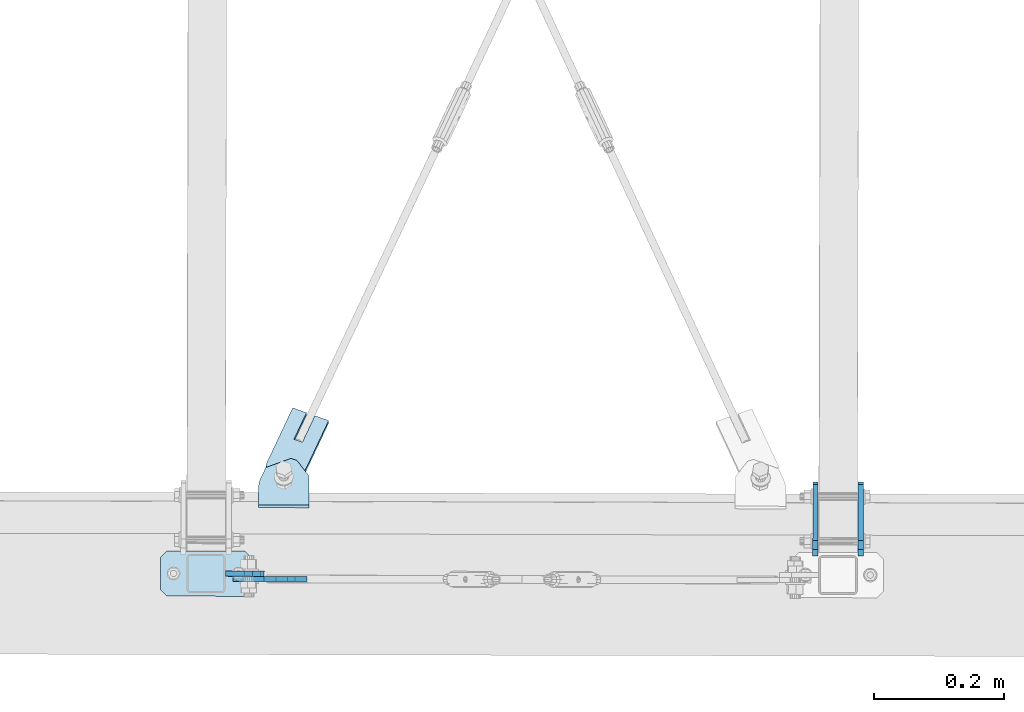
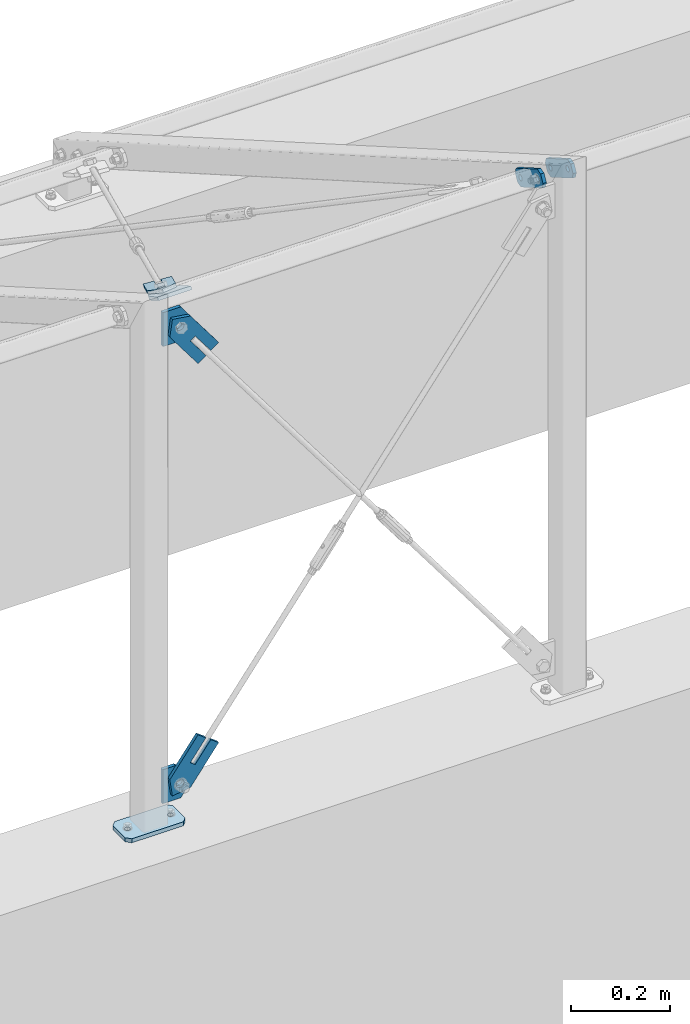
# One storey, part 27 of 288: 9 plates, 38 openings.
"""IFC2X3 building model written with IfcOpenShell, lengths in millimetres."""

import ifcopenshell
import ifcopenshell.guid

model = None  # the IFC model being written
_history = None  # IfcOwnerHistory: only IFC2X3 demands one
_inside = {}  # id of a spatial element -> (the spatial element, [elements in it])
_under = {}  # id of a project, library or spatial element -> (it, [spatial elements below it])
_declared = {}  # id of a project -> (the project, [libraries it declares])
_typed = {}  # id of a type object -> (the type object, [elements of that type])
_made_of = {}  # id of a material, layer set ... -> (it, [elements and type objects made of it])


def new_model(schema):
    """Start an empty IFC model of exactly this schema.

    Asked for "IFC4X3", IfcOpenShell would pick the latest addendum, in which some entities
    have other attributes; the version numbers below select the first issue.
    IFC2X3 requires an IfcOwnerHistory on every rooted entity: one is made here for all.
    """
    global model, _history
    if schema == "IFC4X3":
        model = ifcopenshell.file(schema_version=(4, 3, 0, 0))
    else:
        model = ifcopenshell.file(schema=schema)
    _inside.clear()
    _under.clear()
    _declared.clear()
    _typed.clear()
    _made_of.clear()
    _history = None
    if model.schema == "IFC2X3":
        org = make("IfcOrganization", Name="unknown")
        user = make(
            "IfcPersonAndOrganization",
            ThePerson=make("IfcPerson", FamilyName="unknown"),
            TheOrganization=org,
        )
        app = make(
            "IfcApplication",
            ApplicationDeveloper=org,
            Version="unknown",
            ApplicationFullName="unknown",
            ApplicationIdentifier="unknown",
        )
        _history = make(
            "IfcOwnerHistory",
            OwningUser=user,
            OwningApplication=app,
            ChangeAction="ADDED",
            CreationDate=0,
        )
    return model


def make(cls, **values):
    """One entity of the class cls with the attributes given. An attribute that is None is left unset."""
    return model.create_entity(
        cls, **{name: value for name, value in values.items() if value is not None}
    )


def entity(cls, *values):
    """Any entity or typed value of the class cls, its attributes in the order of the schema. None: left unset."""
    e = model.create_entity(cls)
    for i, value in enumerate(values):
        if value is not None:
            e[i] = value
    return e


def rooted(cls, **values):
    """An entity with a GlobalId (a new one), such as an element, a storey or a relation."""
    return make(cls, GlobalId=ifcopenshell.guid.new(), OwnerHistory=_history, **values)


def si_unit(unit_type, name, prefix=None):
    """IfcSIUnit, for example si_unit("LENGTHUNIT", "METRE", prefix="MILLI")."""
    return make("IfcSIUnit", UnitType=unit_type, Prefix=prefix, Name=name)


def converted_unit(unit_type, name, factor, base, dimensions=None, offset=None):
    """IfcConversionBasedUnit, such as the inch: factor (a typed value) times the base unit."""
    return make(
        "IfcConversionBasedUnit"
        if offset is None
        else "IfcConversionBasedUnitWithOffset",
        ConversionOffset=offset,
        Dimensions=None
        if dimensions is None
        else entity("IfcDimensionalExponents", *dimensions),
        UnitType=unit_type,
        Name=name,
        ConversionFactor=make(
            "IfcMeasureWithUnit", ValueComponent=factor, UnitComponent=base
        ),
    )


def assignment(units):
    """IfcUnitAssignment: the units of a project."""
    return None if units is None else make("IfcUnitAssignment", Units=units)


def point(xyz):
    """IfcCartesianPoint."""
    return None if xyz is None else make("IfcCartesianPoint", Coordinates=xyz)


def direction(xyz):
    """IfcDirection."""
    return None if xyz is None else make("IfcDirection", DirectionRatios=xyz)


def frame(location, z_axis=None, x_axis=None):
    """IfcAxis2Placement3D, a coordinate frame: its origin and axes. An axis left out is left unset."""
    return make(
        "IfcAxis2Placement3D",
        Location=point(location),
        Axis=direction(z_axis),
        RefDirection=direction(x_axis),
    )


def frame_2d(location, x_axis=None):
    """IfcAxis2Placement2D, a coordinate frame in the plane: its origin and x axis."""
    return make(
        "IfcAxis2Placement2D", Location=point(location), RefDirection=direction(x_axis)
    )


def origin():
    """The frame at (0, 0, 0) with its axes left unset."""
    return frame((0.0, 0.0, 0.0))


def origin_with_axes():
    """The frame at (0, 0, 0) with the z axis (0, 0, 1) and the x axis (1, 0, 0) written out."""
    return frame((0.0, 0.0, 0.0), z_axis=(0.0, 0.0, 1.0), x_axis=(1.0, 0.0, 0.0))


def origin_2d_with_axis():
    """The frame at (0, 0) in the plane with the x axis (1, 0) written out."""
    return frame_2d((0.0, 0.0), x_axis=(1.0, 0.0))


def place(relative_to, where):
    """IfcLocalPlacement: puts the frame where relative to a parent placement (None: the world)."""
    return make(
        "IfcLocalPlacement", PlacementRelTo=relative_to, RelativePlacement=where
    )


def context(
    kind, dimensions, precision=None, world=None, true_north=None, identifier=None
):
    """IfcGeometricRepresentationContext, for example the 3D "Model" context."""
    return make(
        "IfcGeometricRepresentationContext",
        ContextIdentifier=identifier,
        ContextType=kind,
        CoordinateSpaceDimension=dimensions,
        Precision=precision,
        WorldCoordinateSystem=world,
        TrueNorth=true_north,
    )


def project(units=None, contexts=None):
    """IfcProject with its units and contexts."""
    return rooted(
        "IfcProject",
        Name="project",
        RepresentationContexts=contexts,
        UnitsInContext=assignment(units),
    )


def spatial(cls, under=None, at=None, **own):
    """A site, building, storey or space (cls), placed at a placement, below another one or the project."""
    s = rooted(cls, ObjectPlacement=at, **own)
    if under is not None:
        _under.setdefault(under.id(), (under, []))[1].append(s)
    return s


def polyline(points):
    """IfcPolyline through the points."""
    return make("IfcPolyline", Points=[point(p) for p in points])


def circle_curve(where, radius):
    """IfcCircle in the frame where."""
    return make("IfcCircle", Position=where, Radius=radius)


def line_curve(start, along, magnitude):
    """IfcLine from a point along a vector."""
    return make(
        "IfcLine",
        Pnt=point(start),
        Dir=make("IfcVector", Orientation=direction(along), Magnitude=magnitude),
    )


def trimmed(basis, trim1, trim2, sense, master):
    """IfcTrimmedCurve: the piece of a basis curve between two trims."""
    return make(
        "IfcTrimmedCurve",
        BasisCurve=basis,
        Trim1=trim1,
        Trim2=trim2,
        SenseAgreement=sense,
        MasterRepresentation=master,
    )


def segment(curve, same_sense, transition):
    """IfcCompositeCurveSegment."""
    return make(
        "IfcCompositeCurveSegment",
        Transition=transition,
        SameSense=same_sense,
        ParentCurve=curve,
    )


def composite_curve(segments, self_intersect=None):
    """IfcCompositeCurve: segments joined end to end."""
    return make("IfcCompositeCurve", Segments=segments, SelfIntersect=self_intersect)


def profile(cls, at=None, kind="AREA", **sizes):
    """A parametric profile (cls). Its sizes go by their IFC names, for example OverallWidth=200.0."""
    return make(cls, ProfileType=kind, Position=at, **sizes)


def circle(**sizes):
    """IfcCircleProfileDef."""
    return profile("IfcCircleProfileDef", **sizes)


def outline(outer, holes=None, kind="AREA"):
    """IfcArbitraryClosedProfileDef: a profile drawn as a closed curve; with holes, ...WithVoids."""
    if holes is None:
        return make("IfcArbitraryClosedProfileDef", ProfileType=kind, OuterCurve=outer)
    return make(
        "IfcArbitraryProfileDefWithVoids",
        ProfileType=kind,
        OuterCurve=outer,
        InnerCurves=holes,
    )


def extrude(swept, where, along, depth):
    """IfcExtrudedAreaSolid: the profile swept, set in the frame where, extruded along a direction by depth."""
    return make(
        "IfcExtrudedAreaSolid",
        SweptArea=swept,
        Position=where,
        ExtrudedDirection=direction(along),
        Depth=depth,
    )


def shape(context_of_items, identifier, shape_type, items):
    """IfcShapeRepresentation: the items that make up one representation, for example the "Body"."""
    return make(
        "IfcShapeRepresentation",
        ContextOfItems=context_of_items,
        RepresentationIdentifier=identifier,
        RepresentationType=shape_type,
        Items=items,
    )


def material(Name=None, Category=None):
    """IfcMaterial."""
    return make("IfcMaterial", Name=Name, Category=Category)


def layer(
    of_material, thickness, ventilated=None, Name=None, Category=None, Priority=None
):
    """IfcMaterialLayer: one layer of a wall or slab, of a material (None: an air gap)."""
    return make(
        "IfcMaterialLayer",
        Material=of_material,
        LayerThickness=thickness,
        IsVentilated=ventilated,
        Name=Name,
        Category=Category,
        Priority=Priority,
    )


def layer_set(layers, Name=None):
    """IfcMaterialLayerSet."""
    return make("IfcMaterialLayerSet", MaterialLayers=layers, LayerSetName=Name)


def made_of(thing, what):
    """Note that an element or type object is made of a material, layer set ...; save() writes the relation."""
    if what is not None:
        _made_of.setdefault(what.id(), (what, []))[1].append(thing)
    return thing


def element(
    cls,
    number,
    at=None,
    inside=None,
    cuts=None,
    type_object=None,
    material=None,
    context=None,
    identifier="Body",
    shape_type=None,
    held_by="IfcProductDefinitionShape",
    body=None,
    shapes=None,
    **own,
):
    """One element of the class cls, such as IfcWall. Its Tag is "e" and its number.

    at: its placement. inside: the storey or other place that contains it. cuts: it is an
    opening in that element (IfcRelVoidsElement). A single representation is given by context,
    identifier, shape_type and body (its items); several are given by shapes. held_by: the class
    of the entity that holds the representations. save() writes the other relations.
    """
    e = rooted(cls, Tag="e%d" % number, ObjectPlacement=at, **own)
    if body is not None:
        shapes = [shape(context, identifier, shape_type, body)]
    if shapes is not None:
        e.Representation = make(held_by, Representations=shapes)
    if inside is not None:
        _inside.setdefault(inside.id(), (inside, []))[1].append(e)
    if cuts is not None:
        rooted(
            "IfcRelVoidsElement", RelatingBuildingElement=cuts, RelatedOpeningElement=e
        )
    if type_object is not None:
        _typed.setdefault(type_object.id(), (type_object, []))[1].append(e)
    return made_of(e, material)


def aggregate(whole, parts):
    """IfcRelAggregates: a whole, such as a stair, and the parts it consists of."""
    return rooted("IfcRelAggregates", RelatingObject=whole, RelatedObjects=parts)


def save(model, path):
    """Write the relations noted so far, then the file.

    IfcRelAggregates (storeys below a building ...), IfcRelContainedInSpatialStructure (elements
    in a storey), IfcRelDefinesByType, IfcRelAssociatesMaterial and IfcRelDeclares: one each for
    every whole, place, type object, material and project.
    """
    for whole, parts in _under.values():
        aggregate(whole, parts)
    for where, things in _inside.values():
        rooted(
            "IfcRelContainedInSpatialStructure",
            RelatedElements=things,
            RelatingStructure=where,
        )
    for kind, things in _typed.values():
        rooted("IfcRelDefinesByType", RelatedObjects=things, RelatingType=kind)
    for what, things in _made_of.values():
        rooted("IfcRelAssociatesMaterial", RelatedObjects=things, RelatingMaterial=what)
    for by, libraries in _declared.values():
        rooted("IfcRelDeclares", RelatingContext=by, RelatedDefinitions=libraries)
    model.write(path)


model = new_model("IFC2X3")

# Units and contexts
model_context = context("Model", 3, precision=1e-09, world=origin_with_axes())
ifc_project = project(units=[si_unit("LENGTHUNIT", "METRE", prefix="MILLI"), si_unit("AREAUNIT", "SQUARE_METRE"), si_unit("VOLUMEUNIT", "CUBIC_METRE"), converted_unit("PLANEANGLEUNIT", "DEGREE", entity("IfcPlaneAngleMeasure", 0.01745329), si_unit("PLANEANGLEUNIT", "RADIAN"), dimensions=[0, 0, 0, 0, 0, 0, 0])], contexts=[model_context])

# Site, building, storey
site_placement = place(None, origin_with_axes())
site = spatial("IfcSite", under=ifc_project, at=site_placement, Name="Remont ?wietlik?w nad MC w NCPP w Opolu", CompositionType="ELEMENT")
building_placement = place(site_placement, origin_with_axes())
building = spatial("IfcBuilding", under=site, at=building_placement, Name="Konstrukcja 1", CompositionType="ELEMENT")
storey_placement = place(building_placement, origin_with_axes())
storey = spatial("IfcBuildingStorey", under=building, at=storey_placement, Name="Default Storey", CompositionType="ELEMENT", Elevation=0.0)

# Plate, openings
ifc_material = material(Name="S235")
ifc_layer_1 = layer(ifc_material, 8.0)
ifc_layer_set_1 = layer_set([ifc_layer_1], Name="S235")
plate_1_placement = place(None, frame((2969.513042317, -107.01836854, 1232.659116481), z_axis=(0.999997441, -0.002262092, 1.05e-07), x_axis=(0.001959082, 0.866023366, -0.499999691)))
plate_1 = element("IfcPlate", 1, at=plate_1_placement, inside=storey, material=ifc_layer_set_1, Name="-", ObjectType="-", context=model_context, shape_type="SweptSolid", body=[
    extrude(outline(polyline([(0.0, 0.0), (120.0, 0.0), (120.0, 40.0), (0.0, 40.0), (0.0, 0.0)])), origin_with_axes(), (0.0, 0.0, 1.0), 8.0),
])
opening_1_placement = place(plate_1_placement, frame((0.0, 0.0, -0.01), z_axis=(0.0, 0.0, 1.0), x_axis=(1.0, 0.0, 0.0)))
element("IfcOpeningElement", 2, at=opening_1_placement, cuts=plate_1, ObjectType="Opening", context=model_context, shape_type="SweptSolid", body=[
    extrude(outline(composite_curve([segment(trimmed(line_curve((0.0, 40.0), (0.0, -1.0), 10.0), [point((0.0, 40.0))], [point((0.0, 30.0))], True, "CARTESIAN"), True, "CONTINUOUS"), segment(trimmed(circle_curve(frame_2d((10.0, 30.0), x_axis=(-1.0, 0.0)), 10.0), [point((0.0, 30.0))], [point((10.0, 40.0))], False, "CARTESIAN"), True, "CONTINUOUS"), segment(trimmed(line_curve((10.0, 40.0), (-1.0, 0.0), 10.0), [point((10.0, 40.0))], [point((0.0, 40.0))], True, "CARTESIAN"), True, "CONTINUOUS")], self_intersect=False)), origin(), (0.0, 0.0, 1.0), 8.02),
])
opening_2_placement = place(plate_1_placement, frame((0.0, 0.0, -0.01), z_axis=(0.0, 0.0, 1.0), x_axis=(1.0, 0.0, 0.0)))
element("IfcOpeningElement", 3, at=opening_2_placement, cuts=plate_1, ObjectType="Opening", context=model_context, shape_type="SweptSolid", body=[
    extrude(outline(composite_curve([segment(trimmed(line_curve((0.0, 0.0), (1.0, 0.0), 10.0), [point((0.0, 0.0))], [point((10.0, 0.0))], True, "CARTESIAN"), True, "CONTINUOUS"), segment(trimmed(circle_curve(frame_2d((10.0, 10.0), x_axis=(-1.0, 0.0)), 10.0), [point((10.0, 0.0))], [point((0.0, 10.0))], False, "CARTESIAN"), True, "CONTINUOUS"), segment(trimmed(line_curve((0.0, 10.0), (0.0, -1.0), 10.0), [point((0.0, 10.0))], [point((0.0, 0.0))], True, "CARTESIAN"), True, "CONTINUOUS")], self_intersect=False)), origin(), (0.0, 0.0, 1.0), 8.02),
])
opening_3_placement = place(plate_1_placement, frame((0.0, 0.0, -0.01), z_axis=(0.0, 0.0, 1.0), x_axis=(1.0, 0.0, 0.0)))
element("IfcOpeningElement", 4, at=opening_3_placement, cuts=plate_1, ObjectType="Opening", context=model_context, shape_type="SweptSolid", body=[
    extrude(outline(composite_curve([segment(trimmed(line_curve((120.0, 40.0), (-1.0, 0.0), 10.0), [point((120.0, 40.0))], [point((110.0, 40.0))], True, "CARTESIAN"), True, "CONTINUOUS"), segment(trimmed(circle_curve(frame_2d((110.0, 30.0), x_axis=(-1.0, 0.0)), 10.0), [point((110.0, 40.0))], [point((120.0, 30.0))], False, "CARTESIAN"), True, "CONTINUOUS"), segment(trimmed(line_curve((120.0, 30.0), (0.0, 1.0), 10.0), [point((120.0, 30.0))], [point((120.0, 40.0))], True, "CARTESIAN"), True, "CONTINUOUS")], self_intersect=False)), origin(), (0.0, 0.0, 1.0), 8.02),
])
opening_4_placement = place(plate_1_placement, frame((0.0, 0.0, -0.01), z_axis=(0.0, 0.0, 1.0), x_axis=(1.0, 0.0, 0.0)))
element("IfcOpeningElement", 5, at=opening_4_placement, cuts=plate_1, ObjectType="Opening", context=model_context, shape_type="SweptSolid", body=[
    extrude(outline(composite_curve([segment(trimmed(line_curve((120.0, 0.0), (0.0, 1.0), 10.0), [point((120.0, 0.0))], [point((120.0, 10.0))], True, "CARTESIAN"), True, "CONTINUOUS"), segment(trimmed(circle_curve(frame_2d((110.0, 10.0), x_axis=(-1.0, 0.0)), 10.0), [point((120.0, 10.0))], [point((110.0, 0.0))], False, "CARTESIAN"), True, "CONTINUOUS"), segment(trimmed(line_curve((110.0, 0.0), (1.0, 0.0), 10.0), [point((110.0, 0.0))], [point((120.0, 0.0))], True, "CARTESIAN"), True, "CONTINUOUS")], self_intersect=False)), origin(), (0.0, 0.0, 1.0), 8.02),
])
opening_5_placement = place(plate_1_placement, frame((27.001, 20.0, -0.5), z_axis=(0.0, 0.0, -1.0), x_axis=(-1.0, 0.0, 0.0)))
element("IfcOpeningElement", 6, at=opening_5_placement, cuts=plate_1, ObjectType="Opening", context=model_context, shape_type="SweptSolid", body=[
    extrude(circle(Radius=7.001, at=frame_2d((7.001, 0.0), x_axis=(1.0, 0.0))), origin(), (0.0, 0.0, -1.0), 9.0),
])
opening_6_placement = place(plate_1_placement, frame((107.001, 20.0, -0.5), z_axis=(0.0, 0.0, -1.0), x_axis=(-1.0, 0.0, 0.0)))
element("IfcOpeningElement", 7, at=opening_6_placement, cuts=plate_1, ObjectType="Opening", context=model_context, shape_type="SweptSolid", body=[
    extrude(circle(Radius=7.001, at=frame_2d((7.001, 0.0), x_axis=(1.0, 0.0))), origin(), (0.0, 0.0, -1.0), 9.0),
])

plate_2_placement = place(None, frame((2899.513071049, -106.860168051, 1232.658855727), z_axis=(0.999997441, -0.002262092, 1.05e-07), x_axis=(0.001959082, 0.866023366, -0.499999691)))
plate_2 = element("IfcPlate", 8, at=plate_2_placement, inside=storey, material=ifc_layer_set_1, Name="-", ObjectType="-", context=model_context, shape_type="SweptSolid", body=[
    extrude(outline(polyline([(0.0, 0.0), (120.0, 0.0), (120.0, 40.0), (0.0, 40.0), (0.0, 0.0)])), origin_with_axes(), (0.0, 0.0, 1.0), 8.0),
])
opening_7_placement = place(plate_2_placement, frame((0.0, 0.0, -0.01), z_axis=(0.0, 0.0, 1.0), x_axis=(1.0, 0.0, 0.0)))
element("IfcOpeningElement", 9, at=opening_7_placement, cuts=plate_2, ObjectType="Opening", context=model_context, shape_type="SweptSolid", body=[
    extrude(outline(composite_curve([segment(trimmed(line_curve((0.0, 40.0), (0.0, -1.0), 10.0), [point((0.0, 40.0))], [point((0.0, 30.0))], True, "CARTESIAN"), True, "CONTINUOUS"), segment(trimmed(circle_curve(frame_2d((10.0, 30.0), x_axis=(-1.0, 0.0)), 10.0), [point((0.0, 30.0))], [point((10.0, 40.0))], False, "CARTESIAN"), True, "CONTINUOUS"), segment(trimmed(line_curve((10.0, 40.0), (-1.0, 0.0), 10.0), [point((10.0, 40.0))], [point((0.0, 40.0))], True, "CARTESIAN"), True, "CONTINUOUS")], self_intersect=False)), origin(), (0.0, 0.0, 1.0), 8.02),
])
opening_8_placement = place(plate_2_placement, frame((0.0, 0.0, -0.01), z_axis=(0.0, 0.0, 1.0), x_axis=(1.0, 0.0, 0.0)))
element("IfcOpeningElement", 10, at=opening_8_placement, cuts=plate_2, ObjectType="Opening", context=model_context, shape_type="SweptSolid", body=[
    extrude(outline(composite_curve([segment(trimmed(line_curve((0.0, 0.0), (1.0, 0.0), 10.0), [point((0.0, 0.0))], [point((10.0, 0.0))], True, "CARTESIAN"), True, "CONTINUOUS"), segment(trimmed(circle_curve(frame_2d((10.0, 10.0), x_axis=(-1.0, 0.0)), 10.0), [point((10.0, 0.0))], [point((0.0, 10.0))], False, "CARTESIAN"), True, "CONTINUOUS"), segment(trimmed(line_curve((0.0, 10.0), (0.0, -1.0), 10.0), [point((0.0, 10.0))], [point((0.0, 0.0))], True, "CARTESIAN"), True, "CONTINUOUS")], self_intersect=False)), origin(), (0.0, 0.0, 1.0), 8.02),
])
opening_9_placement = place(plate_2_placement, frame((0.0, 0.0, -0.01), z_axis=(0.0, 0.0, 1.0), x_axis=(1.0, 0.0, 0.0)))
element("IfcOpeningElement", 11, at=opening_9_placement, cuts=plate_2, ObjectType="Opening", context=model_context, shape_type="SweptSolid", body=[
    extrude(outline(composite_curve([segment(trimmed(line_curve((120.0, 40.0), (-1.0, 0.0), 10.0), [point((120.0, 40.0))], [point((110.0, 40.0))], True, "CARTESIAN"), True, "CONTINUOUS"), segment(trimmed(circle_curve(frame_2d((110.0, 30.0), x_axis=(-1.0, 0.0)), 10.0), [point((110.0, 40.0))], [point((120.0, 30.0))], False, "CARTESIAN"), True, "CONTINUOUS"), segment(trimmed(line_curve((120.0, 30.0), (0.0, 1.0), 10.0), [point((120.0, 30.0))], [point((120.0, 40.0))], True, "CARTESIAN"), True, "CONTINUOUS")], self_intersect=False)), origin(), (0.0, 0.0, 1.0), 8.02),
])
opening_10_placement = place(plate_2_placement, frame((0.0, 0.0, -0.01), z_axis=(0.0, 0.0, 1.0), x_axis=(1.0, 0.0, 0.0)))
element("IfcOpeningElement", 12, at=opening_10_placement, cuts=plate_2, ObjectType="Opening", context=model_context, shape_type="SweptSolid", body=[
    extrude(outline(composite_curve([segment(trimmed(line_curve((120.0, 0.0), (0.0, 1.0), 10.0), [point((120.0, 0.0))], [point((120.0, 10.0))], True, "CARTESIAN"), True, "CONTINUOUS"), segment(trimmed(circle_curve(frame_2d((110.0, 10.0), x_axis=(-1.0, 0.0)), 10.0), [point((120.0, 10.0))], [point((110.0, 0.0))], False, "CARTESIAN"), True, "CONTINUOUS"), segment(trimmed(line_curve((110.0, 0.0), (1.0, 0.0), 10.0), [point((110.0, 0.0))], [point((120.0, 0.0))], True, "CARTESIAN"), True, "CONTINUOUS")], self_intersect=False)), origin(), (0.0, 0.0, 1.0), 8.02),
])
opening_11_placement = place(plate_2_placement, frame((27.001, 20.000292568, -0.5), z_axis=(0.0, 0.0, -1.0), x_axis=(-1.0, 0.0, 0.0)))
element("IfcOpeningElement", 13, at=opening_11_placement, cuts=plate_2, ObjectType="Opening", context=model_context, shape_type="SweptSolid", body=[
    extrude(circle(Radius=7.001, at=frame_2d((7.001, 0.0), x_axis=(1.0, 0.0))), origin(), (0.0, 0.0, -1.0), 9.0),
])
opening_12_placement = place(plate_2_placement, frame((107.001, 20.000292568, -0.5), z_axis=(0.0, 0.0, -1.0), x_axis=(-1.0, 0.0, 0.0)))
element("IfcOpeningElement", 14, at=opening_12_placement, cuts=plate_2, ObjectType="Opening", context=model_context, shape_type="SweptSolid", body=[
    extrude(circle(Radius=7.001, at=frame_2d((7.001, 0.0), x_axis=(1.0, 0.0))), origin(), (0.0, 0.0, -1.0), 9.0),
])

ifc_layer_2 = layer(ifc_material, 10.0)
ifc_layer_set_2 = layer_set([ifc_layer_2], Name="S235")
plate_3_placement = place(None, frame((2033.168673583, -94.484965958, 10.000000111), z_axis=(0.0, 0.0, -1.0), x_axis=(-0.002261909, -0.999997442, 0.0)))
plate_3 = element("IfcPlate", 15, at=plate_3_placement, inside=storey, material=ifc_layer_set_2, Name="Baseplate", ObjectType="Baseplate", context=model_context, shape_type="SweptSolid", body=[
    extrude(outline(polyline([(0.0, 0.0), (70.0, 0.0), (70.0, 140.0), (0.0, 140.0), (0.0, 0.0)])), origin_with_axes(), (0.0, 0.0, 1.0), 10.0),
])
opening_13_placement = place(plate_3_placement, frame((0.0, 0.0, -0.01), z_axis=(0.0, 0.0, 1.0), x_axis=(1.0, 0.0, 0.0)))
element("IfcOpeningElement", 16, at=opening_13_placement, cuts=plate_3, ObjectType="Opening", context=model_context, shape_type="SweptSolid", body=[
    extrude(outline(composite_curve([segment(trimmed(line_curve((70.0, 0.0), (0.0, 1.0), 10.0), [point((70.0, 0.0))], [point((70.0, 10.0))], True, "CARTESIAN"), True, "CONTINUOUS"), segment(trimmed(circle_curve(frame_2d((60.0, 10.0), x_axis=(-1.0, 0.0)), 10.0), [point((70.0, 10.0))], [point((60.0, 0.0))], False, "CARTESIAN"), True, "CONTINUOUS"), segment(trimmed(line_curve((60.0, 0.0), (1.0, 0.0), 10.0), [point((60.0, 0.0))], [point((70.0, 0.0))], True, "CARTESIAN"), True, "CONTINUOUS")], self_intersect=False)), origin(), (0.0, 0.0, 1.0), 10.02),
])
opening_14_placement = place(plate_3_placement, frame((0.0, 0.0, -0.01), z_axis=(0.0, 0.0, 1.0), x_axis=(1.0, 0.0, 0.0)))
element("IfcOpeningElement", 17, at=opening_14_placement, cuts=plate_3, ObjectType="Opening", context=model_context, shape_type="SweptSolid", body=[
    extrude(outline(composite_curve([segment(trimmed(line_curve((0.0, 0.0), (1.0, 0.0), 10.0), [point((0.0, 0.0))], [point((10.0, 0.0))], True, "CARTESIAN"), True, "CONTINUOUS"), segment(trimmed(circle_curve(frame_2d((10.0, 10.0), x_axis=(-1.0, 0.0)), 10.0), [point((10.0, 0.0))], [point((0.0, 10.0))], False, "CARTESIAN"), True, "CONTINUOUS"), segment(trimmed(line_curve((0.0, 10.0), (0.0, -1.0), 10.0), [point((0.0, 10.0))], [point((0.0, 0.0))], True, "CARTESIAN"), True, "CONTINUOUS")], self_intersect=False)), origin(), (0.0, 0.0, 1.0), 10.02),
])
opening_15_placement = place(plate_3_placement, frame((0.0, 0.0, -0.01), z_axis=(0.0, 0.0, 1.0), x_axis=(1.0, 0.0, 0.0)))
element("IfcOpeningElement", 18, at=opening_15_placement, cuts=plate_3, ObjectType="Opening", context=model_context, shape_type="SweptSolid", body=[
    extrude(outline(composite_curve([segment(trimmed(line_curve((70.0, 140.0), (-1.0, 0.0), 10.0), [point((70.0, 140.0))], [point((60.0, 140.0))], True, "CARTESIAN"), True, "CONTINUOUS"), segment(trimmed(circle_curve(frame_2d((60.0, 130.0), x_axis=(-1.0, 0.0)), 10.0), [point((60.0, 140.0))], [point((70.0, 130.0))], False, "CARTESIAN"), True, "CONTINUOUS"), segment(trimmed(line_curve((70.0, 130.0), (0.0, 1.0), 10.0), [point((70.0, 130.0))], [point((70.0, 140.0))], True, "CARTESIAN"), True, "CONTINUOUS")], self_intersect=False)), origin(), (0.0, 0.0, 1.0), 10.02),
])
opening_16_placement = place(plate_3_placement, frame((0.0, 0.0, -0.01), z_axis=(0.0, 0.0, 1.0), x_axis=(1.0, 0.0, 0.0)))
element("IfcOpeningElement", 19, at=opening_16_placement, cuts=plate_3, ObjectType="Opening", context=model_context, shape_type="SweptSolid", body=[
    extrude(outline(composite_curve([segment(trimmed(line_curve((0.0, 140.0), (0.0, -1.0), 10.0), [point((0.0, 140.0))], [point((0.0, 130.0))], True, "CARTESIAN"), True, "CONTINUOUS"), segment(trimmed(circle_curve(frame_2d((10.0, 130.0), x_axis=(-1.0, 0.0)), 10.0), [point((0.0, 130.0))], [point((10.0, 140.0))], False, "CARTESIAN"), True, "CONTINUOUS"), segment(trimmed(line_curve((10.0, 140.0), (-1.0, 0.0), 10.0), [point((10.0, 140.0))], [point((0.0, 140.0))], True, "CARTESIAN"), True, "CONTINUOUS")], self_intersect=False)), origin(), (0.0, 0.0, 1.0), 10.02),
])
opening_17_placement = place(plate_3_placement, frame((35.0, 120.0, 10.5), z_axis=(0.0, 0.0, -1.0), x_axis=(1.0, 0.0, 0.0)))
element("IfcOpeningElement", 20, at=opening_17_placement, cuts=plate_3, ObjectType="Opening", context=model_context, shape_type="SweptSolid", body=[
    extrude(circle(Radius=6.001, at=origin_2d_with_axis()), origin(), (0.0, 0.0, 1.0), 11.0),
])
opening_18_placement = place(plate_3_placement, frame((35.0, 20.0, 10.5), z_axis=(0.0, 0.0, -1.0), x_axis=(1.0, 0.0, 0.0)))
element("IfcOpeningElement", 21, at=opening_18_placement, cuts=plate_3, ObjectType="Opening", context=model_context, shape_type="SweptSolid", body=[
    extrude(circle(Radius=6.001, at=origin_2d_with_axis()), origin(), (0.0, 0.0, 1.0), 11.0),
])

plate_4_placement = place(None, frame((2118.884581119, -133.693655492, 158.347547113), z_axis=(-0.002356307, -0.999997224, 0.0), x_axis=(-0.800992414, 0.001887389, 0.598671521)))
plate_4 = element("IfcPlate", 22, at=plate_4_placement, inside=storey, material=ifc_layer_set_1, Name="Tab_Plate#1", ObjectType="Tab_Plate#1", context=model_context, shape_type="SweptSolid", body=[
    extrude(outline(polyline([(0.0, 0.0), (60.0, 0.0), (60.0, 140.0), (0.0, 140.0), (0.0, 0.0)])), origin_with_axes(), (0.0, 0.0, 1.0), 8.0),
])
opening_19_placement = place(plate_4_placement, frame((0.0, 0.0, -0.01), z_axis=(0.0, 0.0, 1.0), x_axis=(1.0, 0.0, 0.0)))
element("IfcOpeningElement", 23, at=opening_19_placement, cuts=plate_4, ObjectType="Opening", context=model_context, shape_type="SweptSolid", body=[
    extrude(outline(composite_curve([segment(trimmed(line_curve((60.0, 140.0), (-1.0, 0.0), 30.0), [point((60.0, 140.0))], [point((30.0, 140.0))], True, "CARTESIAN"), True, "CONTINUOUS"), segment(trimmed(circle_curve(frame_2d((30.0, 110.0), x_axis=(-1.0, 0.0)), 30.0), [point((30.0, 140.0))], [point((60.0, 110.0))], False, "CARTESIAN"), True, "CONTINUOUS"), segment(trimmed(line_curve((60.0, 110.0), (0.0, 1.0), 30.0), [point((60.0, 110.0))], [point((60.0, 140.0))], True, "CARTESIAN"), True, "CONTINUOUS")], self_intersect=False)), origin(), (0.0, 0.0, 1.0), 8.02),
])
opening_20_placement = place(plate_4_placement, frame((0.0, 0.0, -0.01), z_axis=(0.0, 0.0, 1.0), x_axis=(1.0, 0.0, 0.0)))
element("IfcOpeningElement", 24, at=opening_20_placement, cuts=plate_4, ObjectType="Opening", context=model_context, shape_type="SweptSolid", body=[
    extrude(outline(composite_curve([segment(trimmed(line_curve((0.0, 140.0), (0.0, -1.0), 30.0), [point((0.0, 140.0))], [point((0.0, 110.0))], True, "CARTESIAN"), True, "CONTINUOUS"), segment(trimmed(circle_curve(frame_2d((30.0, 110.0), x_axis=(-1.0, 0.0)), 30.0), [point((0.0, 110.0))], [point((30.0, 140.0))], False, "CARTESIAN"), True, "CONTINUOUS"), segment(trimmed(line_curve((30.0, 140.0), (-1.0, 0.0), 30.0), [point((30.0, 140.0))], [point((0.0, 140.0))], True, "CARTESIAN"), True, "CONTINUOUS")], self_intersect=False)), origin(), (0.0, 0.0, 1.0), 8.02),
])
opening_21_placement = place(plate_4_placement, frame((0.0, 0.0, 8.1), z_axis=(0.0, 0.0, -1.0), x_axis=(0.800994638, 0.598671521, 0.0)))
element("IfcOpeningElement", 25, at=opening_21_placement, cuts=plate_4, ObjectType="Opening", context=model_context, shape_type="SweptSolid", body=[
    extrude(outline(polyline([(54.941637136, -35.092627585), (66.157164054, -26.710028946), (29.637003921, 22.152245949), (18.421477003, 13.76964731), (54.941637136, -35.092627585)])), origin(), (0.0, 0.0, 1.0), 8.2),
])
opening_22_placement = place(plate_4_placement, frame((30.0, 110.0, 8.5), z_axis=(0.0, 0.0, -1.0), x_axis=(0.0, -1.0, 0.0)))
element("IfcOpeningElement", 26, at=opening_22_placement, cuts=plate_4, ObjectType="Opening", context=model_context, shape_type="SweptSolid", body=[
    extrude(circle(Radius=9.001, at=origin_2d_with_axis()), origin(), (0.0, 0.0, 1.0), 9.0),
])

plate_5_placement = place(None, frame((2022.931447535, -133.467559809, 130.188267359), z_axis=(0.002356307, 0.999997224, 0.0), x_axis=(0.800992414, -0.001887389, -0.598671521)))
plate_5 = element("IfcPlate", 27, at=plate_5_placement, inside=storey, material=ifc_layer_set_1, Name="Gusset#1", ObjectType="Gusset#1", context=model_context, shape_type="SweptSolid", body=[
    extrude(outline(polyline([(0.0, 0.0), (60.0, 0.0), (60.0, 60.0), (26.36594491, 85.138434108), (-23.910471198, 17.870928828), (0.0, 0.0)])), origin_with_axes(), (0.0, 0.0, 1.0), 8.0),
])
opening_23_placement = place(plate_5_placement, frame((30.0, 30.0, -0.5), z_axis=(0.0, 0.0, 1.0), x_axis=(0.0, -1.0, 0.0)))
element("IfcOpeningElement", 28, at=opening_23_placement, cuts=plate_5, ObjectType="Opening", context=model_context, shape_type="SweptSolid", body=[
    extrude(circle(Radius=9.001, at=origin_2d_with_axis()), origin(), (0.0, 0.0, 1.0), 9.0),
])
opening_24_placement = place(plate_5_placement, frame((0.0, 0.0, -0.01), z_axis=(0.0, 0.0, 1.0), x_axis=(1.0, 0.0, 0.0)))
element("IfcOpeningElement", 29, at=opening_24_placement, cuts=plate_5, ObjectType="Opening", context=model_context, shape_type="SweptSolid", body=[
    extrude(outline(composite_curve([segment(trimmed(line_curve((60.0, 0.0), (0.0, 1.0), 30.0), [point((60.0, 0.0))], [point((60.0, 30.0))], True, "CARTESIAN"), True, "CONTINUOUS"), segment(trimmed(circle_curve(frame_2d((30.0, 30.0), x_axis=(-1.0, 0.0)), 30.0), [point((60.0, 30.0))], [point((30.0, 0.0))], False, "CARTESIAN"), True, "CONTINUOUS"), segment(trimmed(line_curve((30.0, 0.0), (1.0, 0.0), 30.0), [point((30.0, 0.0))], [point((60.0, 0.0))], True, "CARTESIAN"), True, "CONTINUOUS")], self_intersect=False)), origin(), (0.0, 0.0, 1.0), 8.02),
])

plate_6_placement = place(None, frame((2118.866344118, -141.756292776, 1146.652453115), z_axis=(0.002167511, 0.999997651, 0.0), x_axis=(-0.800992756, 0.001736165, -0.598671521)))
plate_6 = element("IfcPlate", 30, at=plate_6_placement, inside=storey, material=ifc_layer_set_1, Name="Tab_Plate#2", ObjectType="Tab_Plate#2", context=model_context, shape_type="SweptSolid", body=[
    extrude(outline(polyline([(0.0, 0.0), (60.0, 0.0), (60.0, 140.0), (0.0, 140.0), (0.0, 0.0)])), origin_with_axes(), (0.0, 0.0, 1.0), 8.0),
])
opening_25_placement = place(plate_6_placement, frame((0.0, 0.0, -0.01), z_axis=(0.0, 0.0, 1.0), x_axis=(1.0, 0.0, 0.0)))
element("IfcOpeningElement", 31, at=opening_25_placement, cuts=plate_6, ObjectType="Opening", context=model_context, shape_type="SweptSolid", body=[
    extrude(outline(composite_curve([segment(trimmed(line_curve((60.0, 140.0), (-1.0, 0.0), 30.0), [point((60.0, 140.0))], [point((30.0, 140.0))], True, "CARTESIAN"), True, "CONTINUOUS"), segment(trimmed(circle_curve(frame_2d((30.0, 110.0), x_axis=(-1.0, 0.0)), 30.0), [point((30.0, 140.0))], [point((60.0, 110.0))], False, "CARTESIAN"), True, "CONTINUOUS"), segment(trimmed(line_curve((60.0, 110.0), (0.0, 1.0), 30.0), [point((60.0, 110.0))], [point((60.0, 140.0))], True, "CARTESIAN"), True, "CONTINUOUS")], self_intersect=False)), origin(), (0.0, 0.0, 1.0), 8.02),
])
opening_26_placement = place(plate_6_placement, frame((0.0, 0.0, -0.01), z_axis=(0.0, 0.0, 1.0), x_axis=(1.0, 0.0, 0.0)))
element("IfcOpeningElement", 32, at=opening_26_placement, cuts=plate_6, ObjectType="Opening", context=model_context, shape_type="SweptSolid", body=[
    extrude(outline(composite_curve([segment(trimmed(line_curve((0.0, 140.0), (0.0, -1.0), 30.0), [point((0.0, 140.0))], [point((0.0, 110.0))], True, "CARTESIAN"), True, "CONTINUOUS"), segment(trimmed(circle_curve(frame_2d((30.0, 110.0), x_axis=(-1.0, 0.0)), 30.0), [point((0.0, 110.0))], [point((30.0, 140.0))], False, "CARTESIAN"), True, "CONTINUOUS"), segment(trimmed(line_curve((30.0, 140.0), (-1.0, 0.0), 30.0), [point((30.0, 140.0))], [point((0.0, 140.0))], True, "CARTESIAN"), True, "CONTINUOUS")], self_intersect=False)), origin(), (0.0, 0.0, 1.0), 8.02),
])
opening_27_placement = place(plate_6_placement, frame((0.0, 0.0, 8.1), z_axis=(0.0, 0.0, -1.0), x_axis=(-0.800994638, -0.598671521, 0.0)))
element("IfcOpeningElement", 33, at=opening_27_placement, cuts=plate_6, ObjectType="Opening", context=model_context, shape_type="SweptSolid", body=[
    extrude(outline(polyline([(-54.941637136, 35.092627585), (-66.157164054, 26.710028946), (-29.637003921, -22.152245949), (-18.421477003, -13.76964731), (-54.941637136, 35.092627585)])), origin(), (0.0, 0.0, 1.0), 8.2),
])
opening_28_placement = place(plate_6_placement, frame((30.0, 110.0, 8.5), z_axis=(0.0, 0.0, -1.0), x_axis=(0.0, -1.0, 0.0)))
element("IfcOpeningElement", 34, at=opening_28_placement, cuts=plate_6, ObjectType="Opening", context=model_context, shape_type="SweptSolid", body=[
    extrude(circle(Radius=9.001, at=origin_2d_with_axis()), origin(), (0.0, 0.0, 1.0), 9.0),
])

plate_7_placement = place(None, frame((2022.94784974, -125.548350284, 1174.811732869), z_axis=(-0.002167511, -0.999997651, 0.0), x_axis=(0.800992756, -0.001736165, 0.598671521)))
plate_7 = element("IfcPlate", 35, at=plate_7_placement, inside=storey, material=ifc_layer_set_1, Name="Gusset#2", ObjectType="Gusset#2", context=model_context, shape_type="SweptSolid", body=[
    extrude(outline(polyline([(0.0, 0.0), (60.0, 0.0), (60.0, 60.0), (26.367154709, 85.137529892), (-23.909261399, 17.870024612), (0.0, 0.0)])), origin_with_axes(), (0.0, 0.0, 1.0), 8.0),
])
opening_29_placement = place(plate_7_placement, frame((30.0, 30.0, -0.5), z_axis=(0.0, 0.0, 1.0), x_axis=(0.0, -1.0, 0.0)))
element("IfcOpeningElement", 36, at=opening_29_placement, cuts=plate_7, ObjectType="Opening", context=model_context, shape_type="SweptSolid", body=[
    extrude(circle(Radius=9.001, at=origin_2d_with_axis()), origin(), (0.0, 0.0, 1.0), 9.0),
])
opening_30_placement = place(plate_7_placement, frame((0.0, 0.0, -0.01), z_axis=(0.0, 0.0, 1.0), x_axis=(1.0, 0.0, 0.0)))
element("IfcOpeningElement", 37, at=opening_30_placement, cuts=plate_7, ObjectType="Opening", context=model_context, shape_type="SweptSolid", body=[
    extrude(outline(composite_curve([segment(trimmed(line_curve((60.0, 0.0), (0.0, 1.0), 30.0), [point((60.0, 0.0))], [point((60.0, 30.0))], True, "CARTESIAN"), True, "CONTINUOUS"), segment(trimmed(circle_curve(frame_2d((30.0, 30.0), x_axis=(-1.0, 0.0)), 30.0), [point((60.0, 30.0))], [point((30.0, 0.0))], False, "CARTESIAN"), True, "CONTINUOUS"), segment(trimmed(line_curve((30.0, 0.0), (1.0, 0.0), 30.0), [point((30.0, 0.0))], [point((60.0, 0.0))], True, "CARTESIAN"), True, "CONTINUOUS")], self_intersect=False)), origin(), (0.0, 0.0, 1.0), 8.02),
])

plate_8_placement = place(None, frame((2096.964757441, 126.416476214, 1135.971967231), z_axis=(-0.001127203, -0.499998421, -0.866025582), x_axis=(0.925763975, -0.327966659, 0.188146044)))
plate_8 = element("IfcPlate", 38, at=plate_8_placement, inside=storey, material=ifc_layer_set_1, Name="Tab_Plate#1", ObjectType="Tab_Plate#1", context=model_context, shape_type="SweptSolid", body=[
    extrude(outline(polyline([(0.0, 0.0), (60.0, 0.0), (60.0, 140.0), (0.0, 140.0), (0.0, 0.0)])), origin_with_axes(), (0.0, 0.0, 1.0), 8.0),
])
opening_31_placement = place(plate_8_placement, frame((0.0, 0.0, -0.01), z_axis=(0.0, 0.0, 1.0), x_axis=(1.0, 0.0, 0.0)))
element("IfcOpeningElement", 39, at=opening_31_placement, cuts=plate_8, ObjectType="Opening", context=model_context, shape_type="SweptSolid", body=[
    extrude(outline(composite_curve([segment(trimmed(line_curve((60.0, 140.0), (-1.0, 0.0), 30.0), [point((60.0, 140.0))], [point((30.0, 140.0))], True, "CARTESIAN"), True, "CONTINUOUS"), segment(trimmed(circle_curve(frame_2d((30.0, 110.0), x_axis=(-1.0, 0.0)), 30.0), [point((30.0, 140.0))], [point((60.0, 110.0))], False, "CARTESIAN"), True, "CONTINUOUS"), segment(trimmed(line_curve((60.0, 110.0), (0.0, 1.0), 30.0), [point((60.0, 110.0))], [point((60.0, 140.0))], True, "CARTESIAN"), True, "CONTINUOUS")], self_intersect=False)), origin(), (0.0, 0.0, 1.0), 8.02),
])
opening_32_placement = place(plate_8_placement, frame((0.0, 0.0, -0.01), z_axis=(0.0, 0.0, 1.0), x_axis=(1.0, 0.0, 0.0)))
element("IfcOpeningElement", 40, at=opening_32_placement, cuts=plate_8, ObjectType="Opening", context=model_context, shape_type="SweptSolid", body=[
    extrude(outline(composite_curve([segment(trimmed(line_curve((0.0, 140.0), (0.0, -1.0), 30.0), [point((0.0, 140.0))], [point((0.0, 110.0))], True, "CARTESIAN"), True, "CONTINUOUS"), segment(trimmed(circle_curve(frame_2d((30.0, 110.0), x_axis=(-1.0, 0.0)), 30.0), [point((0.0, 110.0))], [point((30.0, 140.0))], False, "CARTESIAN"), True, "CONTINUOUS"), segment(trimmed(line_curve((30.0, 140.0), (-1.0, 0.0), 30.0), [point((30.0, 140.0))], [point((0.0, 140.0))], True, "CARTESIAN"), True, "CONTINUOUS")], self_intersect=False)), origin(), (0.0, 0.0, 1.0), 8.02),
])
opening_33_placement = place(plate_8_placement, frame((0.0, 0.0, 8.1), z_axis=(0.0, 0.0, -1.0), x_axis=(-0.926500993, 0.376292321, 0.0)))
element("IfcOpeningElement", 41, at=opening_33_placement, cuts=plate_8, ObjectType="Opening", context=model_context, shape_type="SweptSolid", body=[
    extrude(outline(polyline([(-2.11731166, 55.906824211), (-15.090178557, 61.17566929), (-34.281839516, 13.922265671), (-21.308972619, 8.653420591), (-2.11731166, 55.906824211)])), origin(), (0.0, 0.0, 1.0), 8.2),
])
opening_34_placement = place(plate_8_placement, frame((30.0, 110.0, 8.5), z_axis=(0.0, 0.0, -1.0), x_axis=(0.0, -1.0, 0.0)))
element("IfcOpeningElement", 42, at=opening_34_placement, cuts=plate_8, ObjectType="Opening", context=model_context, shape_type="SweptSolid", body=[
    extrude(circle(Radius=9.001, at=origin_2d_with_axis()), origin(), (0.0, 0.0, 1.0), 9.0),
])

plate_9_placement = place(None, frame((2122.244541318, 34.616645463, 1170.46433742), z_axis=(0.001127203, 0.499998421, 0.866025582), x_axis=(-0.925763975, 0.327966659, -0.188146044)))
plate_9 = element("IfcPlate", 43, at=plate_9_placement, inside=storey, material=ifc_layer_set_1, Name="Gusset#1", ObjectType="Gusset#1", context=model_context, shape_type="SweptSolid", body=[
    extrude(outline(polyline([(0.0, 0.0), (60.0, 0.0), (60.0, 60.0), (45.293350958, 96.211175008), (-27.128999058, 66.797876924), (0.0, 0.0)])), origin_with_axes(), (0.0, 0.0, 1.0), 8.0),
])
opening_35_placement = place(plate_9_placement, frame((30.0, 30.0, -0.5), z_axis=(0.0, 0.0, 1.0), x_axis=(0.0, -1.0, 0.0)))
element("IfcOpeningElement", 44, at=opening_35_placement, cuts=plate_9, ObjectType="Opening", context=model_context, shape_type="SweptSolid", body=[
    extrude(circle(Radius=9.001, at=origin_2d_with_axis()), origin(), (0.0, 0.0, 1.0), 9.0),
])
opening_36_placement = place(plate_9_placement, frame((0.0, 0.0, -0.01), z_axis=(0.0, 0.0, 1.0), x_axis=(1.0, 0.0, 0.0)))
element("IfcOpeningElement", 45, at=opening_36_placement, cuts=plate_9, ObjectType="Opening", context=model_context, shape_type="SweptSolid", body=[
    extrude(outline(composite_curve([segment(trimmed(line_curve((60.0, 0.0), (0.0, 1.0), 30.0), [point((60.0, 0.0))], [point((60.0, 30.0))], True, "CARTESIAN"), True, "CONTINUOUS"), segment(trimmed(circle_curve(frame_2d((30.0, 30.0), x_axis=(-1.0, 0.0)), 30.0), [point((60.0, 30.0))], [point((30.0, 0.0))], False, "CARTESIAN"), True, "CONTINUOUS"), segment(trimmed(line_curve((30.0, 0.0), (1.0, 0.0), 30.0), [point((30.0, 0.0))], [point((60.0, 0.0))], True, "CARTESIAN"), True, "CONTINUOUS")], self_intersect=False)), origin(), (0.0, 0.0, 1.0), 8.02),
])
opening_37_placement = place(plate_9_placement, frame((0.0, 0.0, -0.01), z_axis=(0.0, 0.0, 1.0), x_axis=(1.0, 0.0, 0.0)))
element("IfcOpeningElement", 46, at=opening_37_placement, cuts=plate_9, ObjectType="Opening", context=model_context, shape_type="SweptSolid", body=[
    extrude(outline(composite_curve([segment(trimmed(line_curve((0.0, 0.0), (1.0, 0.0), 20.195732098), [point((0.0, 0.0))], [point((20.195732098, 0.0))], True, "CARTESIAN"), True, "CONTINUOUS"), segment(trimmed(circle_curve(frame_2d((20.195732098, 30.0), x_axis=(-1.0, 0.0)), 30.0), [point((20.195732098, 0.0))], [point((-7.599373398, 18.711416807))], False, "CARTESIAN"), True, "CONTINUOUS"), segment(trimmed(line_curve((-7.599373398, 18.711416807), (0.376286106, -0.926503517), 20.195732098), [point((-7.599373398, 18.711416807))], [point((0.0, 0.0))], True, "CARTESIAN"), True, "CONTINUOUS")], self_intersect=False)), origin(), (0.0, 0.0, 1.0), 8.02),
])
opening_38_placement = place(plate_9_placement, frame((0.0, 0.0, -0.01), z_axis=(0.0, 0.0, 1.0), x_axis=(1.0, 0.0, 0.0)))
element("IfcOpeningElement", 47, at=opening_38_placement, cuts=plate_9, ObjectType="Opening", context=model_context, shape_type="SweptSolid", body=[
    extrude(outline(composite_curve([segment(trimmed(line_curve((60.0, 60.0), (-0.376286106, 0.926503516), 5.859622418), [point((60.0, 60.0))], [point((57.795105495, 65.428960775))], True, "CARTESIAN"), True, "CONTINUOUS"), segment(trimmed(circle_curve(frame_2d((30.0, 54.140377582), x_axis=(-1.0, 0.0)), 30.0), [point((57.795105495, 65.428960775))], [point((60.0, 54.140377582))], False, "CARTESIAN"), True, "CONTINUOUS"), segment(trimmed(line_curve((60.0, 54.140377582), (0.0, 1.0), 5.859622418), [point((60.0, 54.140377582))], [point((60.0, 60.0))], True, "CARTESIAN"), True, "CONTINUOUS")], self_intersect=False)), origin(), (0.0, 0.0, 1.0), 8.02),
])

save(model, "model.ifc")
